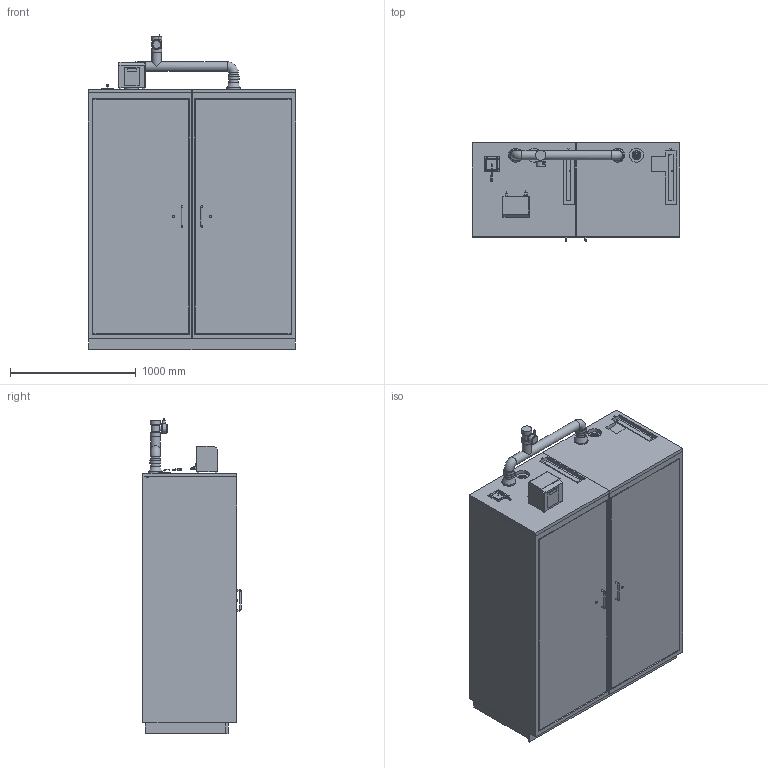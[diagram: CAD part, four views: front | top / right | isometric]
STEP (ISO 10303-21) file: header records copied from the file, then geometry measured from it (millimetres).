
FILE_DESCRIPTION(/* description */ ('Unknown'),/* implementation_level */ '2;1');
FILE_NAME(/* name */ 'COMPLEX CLASSIC XXL_AU_D00115320',/* time_stamp */ '2022-01-05T13:49:59+01:00',/* author */ ('Unknown'),/* organization */ ('Unknown'),/* preprocessor_version */ 'ST-DEVELOPER v16.7',/* originating_system */ 'Solid Edge',/* authorisation */ 'Unknown');
FILE_SCHEMA (('AUTOMOTIVE_DESIGN {1 0 10303 214 3 1 1}'));
Length unit declared in the file: millimetre
Products named in the file (1): COMPLEX CLASSIC XXL_D00115320
Bounding box: 1654 x 781.99 x 2512.92 mm (x, y, z)
Volume: 2465237034.7 mm3; surface area: 14866310.7 mm2
Topology: 2 solids, 4 shells, 506 faces, 1192 edges, 781 vertices
Faces by surface type: plane 345, cylinder 130, torus 13, sphere 8, cone 7, bspline 3
Full cylindrical faces by diameter (mm): 6 x3, 6.2 x4, 7.5 x4, 8 x3, 8.3 x8, 9.75 x1, 10 x1, 11.445 x1, 12 x8, 18 x6, 20 x1, 22 x3, 30 x8, 45 x1, 70 x1, 72 x1, 75 x6, 80 x7, 88 x2, 109.5 x2, 112 x4
Entity records: 17174 total; most frequent: CARTESIAN_POINT 2420, DIRECTION 2307, ORIENTED_EDGE 2084, EDGE_CURVE 1042, AXIS2_PLACEMENT_3D 771, LINE 765, VECTOR 765, VERTEX_POINT 733
